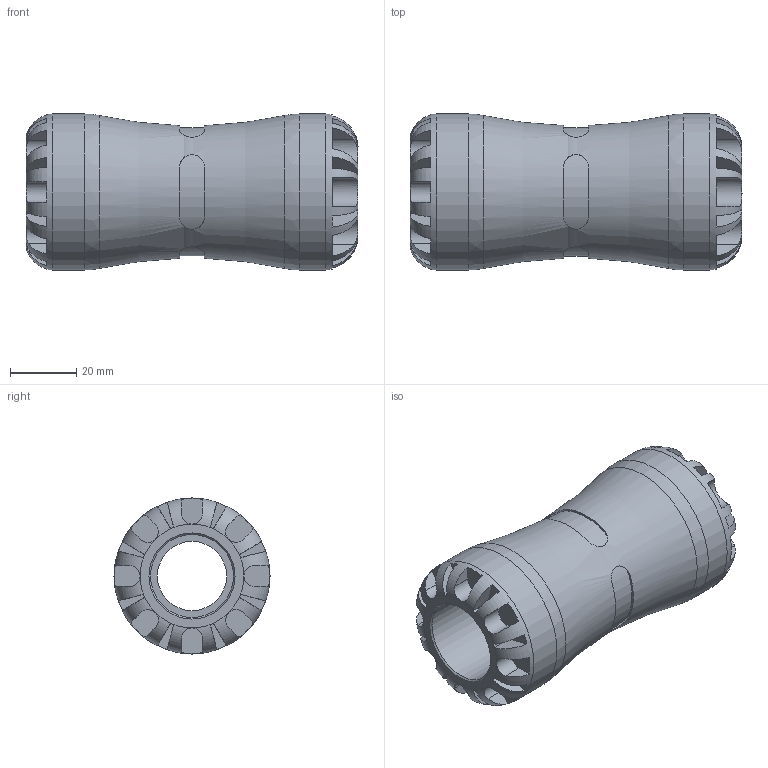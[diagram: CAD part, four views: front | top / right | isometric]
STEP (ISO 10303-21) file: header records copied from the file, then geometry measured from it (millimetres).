
FILE_DESCRIPTION(/* description */ ('PLASSON PVC TO PE COUPLER 25 SERIES 1'),/* implementation_level */ '2;1');
FILE_NAME(/* name */ 'C:\Dropbox\KIMPROJECTS-Inventor\99-16-3568-Processing\1001Q\1001Q0025_1901Q0025.ipt.stp',/* time_stamp */ '2017-01-22T10:45:32+02:00',/* author */ ('KIM'),/* organization */ (''),/* preprocessor_version */ 'ST-DEVELOPER v15.6',/* originating_system */ 'Autodesk Inventor 2015',/* authorisation */ '');
FILE_SCHEMA (('AUTOMOTIVE_DESIGN { 1 0 10303 214 3 1 1 }'));
Length unit declared in the file: millimetre
Products named in the file (1): 1001Q0025_1901Q0025
Bounding box: 100 x 47 x 47 mm (x, y, z)
Volume: 93709.9 mm3; surface area: 26351.4 mm2
Topology: 1 solids, 1 shells, 164 faces, 419 edges, 262 vertices
Faces by surface type: plane 108, cylinder 49, torus 3, cone 2, bspline 2
Full cylindrical faces by diameter (mm): 20.833 x1, 25 x2, 47 x2
Entity records: 6412 total; most frequent: CARTESIAN_POINT 2443, ORIENTED_EDGE 808, DIRECTION 762, EDGE_CURVE 404, AXIS2_PLACEMENT_3D 309, VERTEX_POINT 258, EDGE_LOOP 182, STYLED_ITEM 165
